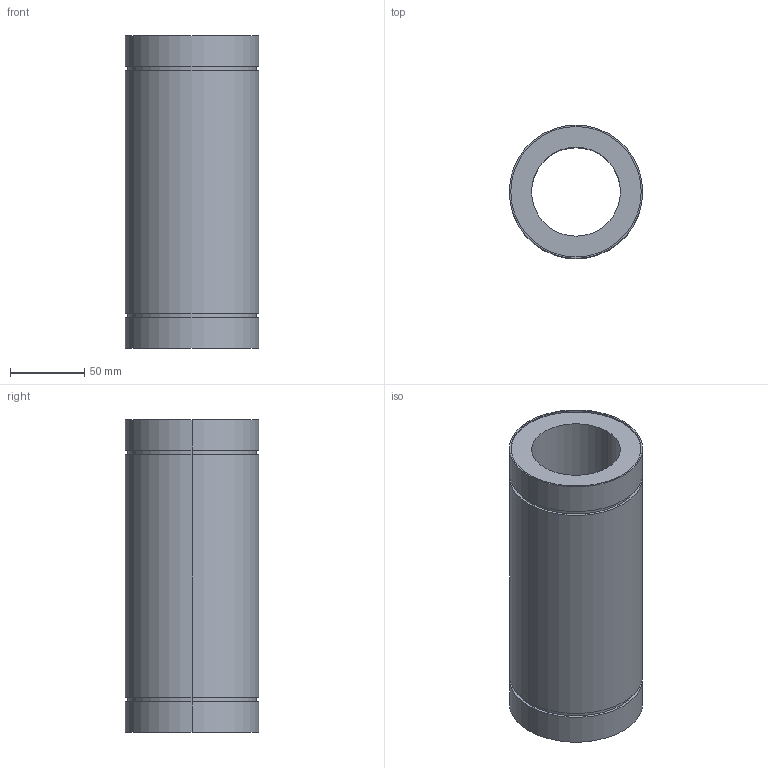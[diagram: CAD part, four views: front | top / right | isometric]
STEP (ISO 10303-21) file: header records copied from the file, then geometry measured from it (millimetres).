
FILE_DESCRIPTION((''),'2;1');
FILE_NAME('C:\Documents and Settings\ｿﾀﾀ蠑ｷ1\ｹﾙﾅﾁ ﾈｭｸ饅\ｺﾎﾇｰﾆﾄﾀﾏ\ﾁｦﾇｰ\LME__LUU\LME60LUU.stp','2005-06-14T18:40:13',('ｿﾀﾀ蠑ｷ1'),(''),'Autodesk Inventor 9','Autodesk Inventor 9','');
FILE_SCHEMA(('AUTOMOTIVE_DESIGN { 1 0 10303 214 1 1 1 1 }'));
Length unit declared in the file: millimetre
Products named in the file (1): LME__
Bounding box: 90 x 90 x 211 mm (x, y, z)
Volume: 736169.5 mm3; surface area: 108547.4 mm2
Topology: 1 solids, 1 shells, 24 faces, 48 edges, 32 vertices
Faces by surface type: cylinder 16, plane 8
Entity records: 671 total; most frequent: DIRECTION 130, CARTESIAN_POINT 105, ORIENTED_EDGE 96, AXIS2_PLACEMENT_3D 57, EDGE_CURVE 48, VERTEX_POINT 32, CIRCLE 32, EDGE_LOOP 32
